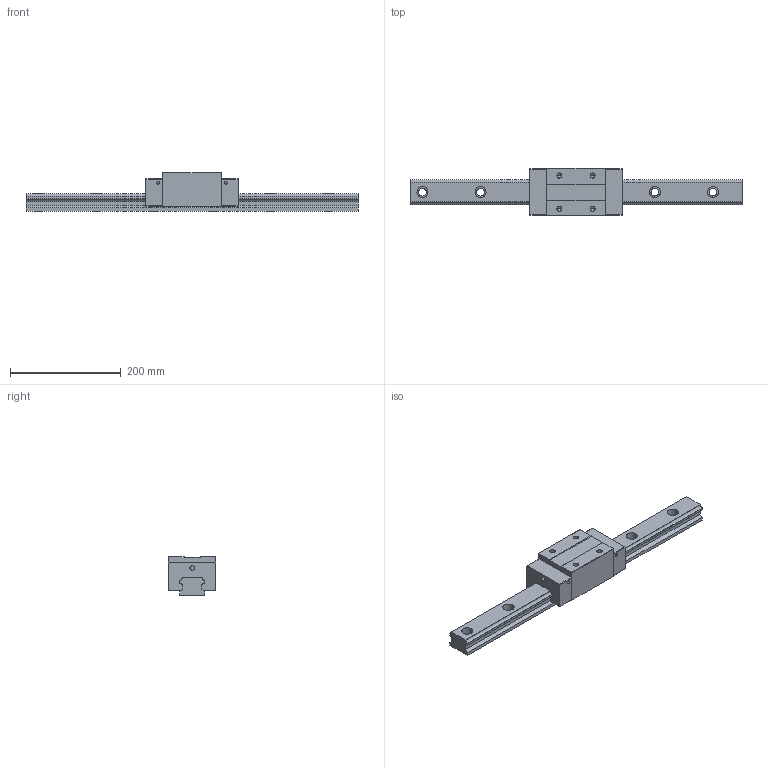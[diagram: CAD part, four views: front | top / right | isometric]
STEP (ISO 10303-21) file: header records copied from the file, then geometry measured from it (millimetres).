
FILE_DESCRIPTION (( 'STEP AP203' ), '1' );
FILE_NAME ('TRH45VL-DZ.STEP', '2024-07-10T08:40:51', ( '' ), ( '' ), 'SwSTEP 2.0', 'SolidWorks 2022', '' );
FILE_SCHEMA (( 'CONFIG_CONTROL_DESIGN' ));
Length unit declared in the file: millimetre
Products named in the file (1): TRH45VL-DZ
Bounding box: 600 x 85.5 x 70 mm (x, y, z)
Volume: 1364155.4 mm3; surface area: 174434.5 mm2
Topology: 2 solids, 2 shells, 180 faces, 472 edges, 304 vertices
Faces by surface type: plane 84, cylinder 80, cone 16
Entity records: 5607 total; most frequent: DIRECTION 994, CARTESIAN_POINT 949, ORIENTED_EDGE 928, EDGE_CURVE 464, AXIS2_PLACEMENT_3D 349, VERTEX_POINT 304, VECTOR 296, LINE 296
